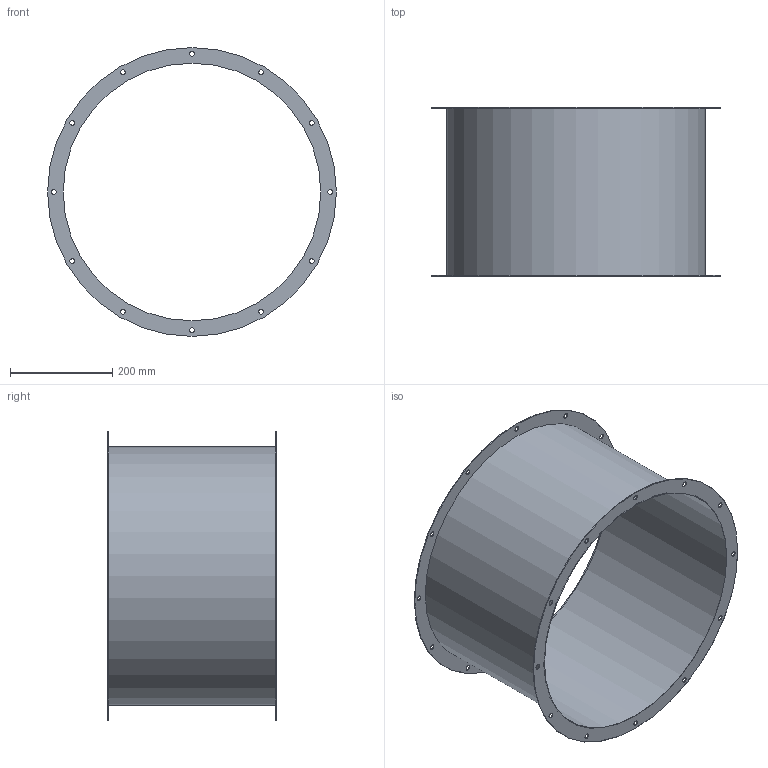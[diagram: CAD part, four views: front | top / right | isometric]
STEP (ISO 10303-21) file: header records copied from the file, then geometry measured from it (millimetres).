
FILE_DESCRIPTION(/* description */ (''),/* implementation_level */ '2;1');
FILE_NAME(/* name */ 'Z:\Output\VR_500-01408-001.stp',/* time_stamp */ '2020-05-11T11:52:55+02:00',/* author */ ('jayeshpanchal'),/* organization */ (''),/* preprocessor_version */ 'ST-DEVELOPER v17.2',/* originating_system */ 'Autodesk Inventor 2019',/* authorisation */ '');
FILE_SCHEMA (('AUTOMOTIVE_DESIGN { 1 0 10303 214 3 1 1 }'));
Length unit declared in the file: millimetre
Products named in the file (1): VR-1
Bounding box: 565 x 330 x 565 mm (x, y, z)
Volume: 930044.2 mm3; surface area: 1246444.2 mm2
Topology: 1 solids, 1 shells, 32 faces, 92 edges, 64 vertices
Faces by surface type: cylinder 28, plane 4
Full cylindrical faces by diameter (mm): 9.5 x24, 504 x1, 507 x1, 565 x2
Entity records: 1245 total; most frequent: DIRECTION 222, CARTESIAN_POINT 189, ORIENTED_EDGE 184, AXIS2_PLACEMENT_3D 97, EDGE_CURVE 92, EDGE_LOOP 84, CIRCLE 64, VERTEX_POINT 64
